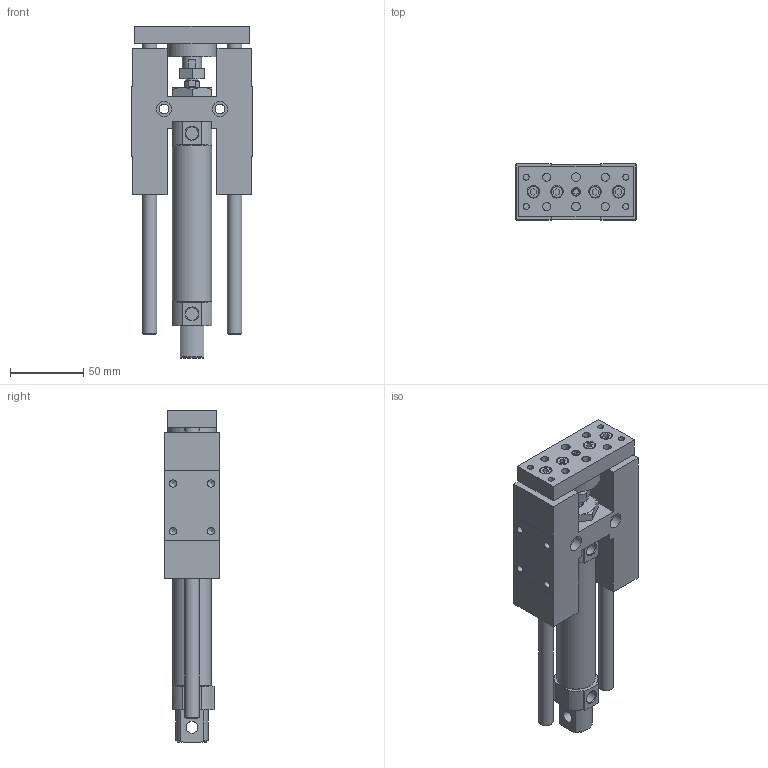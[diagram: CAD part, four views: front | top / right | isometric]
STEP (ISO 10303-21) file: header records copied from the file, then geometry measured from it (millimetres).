
FILE_DESCRIPTION((''),'2;1');
FILE_NAME('I:\3D電子目錄\氣缸\GHB(U)\GHB(U)\GHB(U)25\GHB(U)25x75.stp','2007-10-22T16:49:55',('Administrator'),(''),'Autodesk Inventor 11','Autodesk Inventor 11','');
FILE_SCHEMA(('AUTOMOTIVE_DESIGN { 1 0 10303 214 1 1 1 1 }'));
Length unit declared in the file: millimetre
Products named in the file (1): GHB(U)25
Bounding box: 82 x 38 x 226 mm (x, y, z)
Volume: 343683.3 mm3; surface area: 67580.9 mm2
Topology: 1 solids, 1 shells, 230 faces, 542 edges, 352 vertices
Faces by surface type: plane 131, cylinder 38, bspline 36, cone 25
Full cylindrical faces by diameter (mm): 4.917 x4, 5 x1, 6 x5, 7.5 x4, 8 x1, 8.5 x6, 8.6 x1, 10 x3, 13 x1, 26.6 x1, 33 x1
Entity records: 6522 total; most frequent: CARTESIAN_POINT 1583, DIRECTION 974, ORIENTED_EDGE 928, EDGE_CURVE 464, EDGE_LOOP 358, AXIS2_PLACEMENT_3D 347, VERTEX_POINT 338, VECTOR 280
